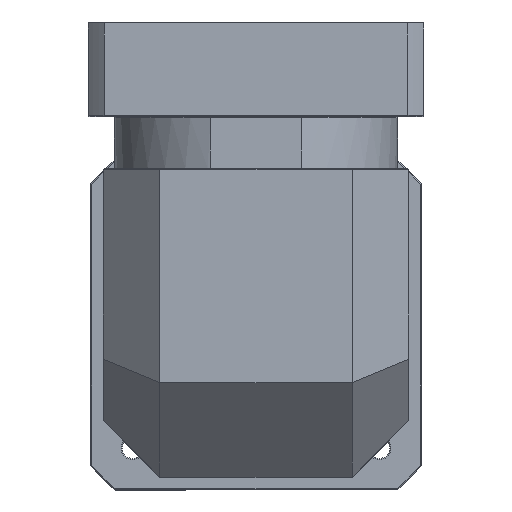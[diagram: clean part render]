
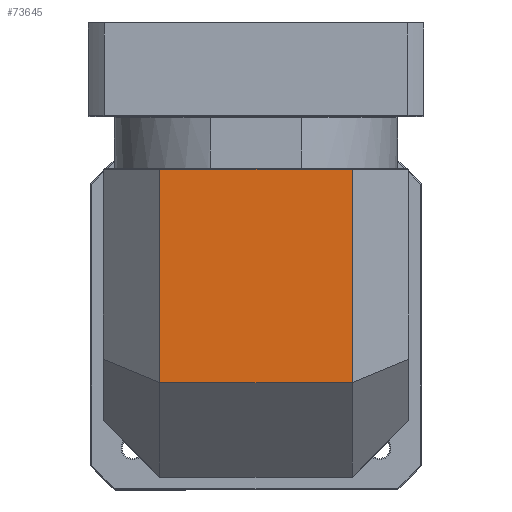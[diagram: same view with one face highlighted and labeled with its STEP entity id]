
A CAD part, top view. The second image highlights one B-rep face of the part: STEP entity #73645.
In plain terms, the highlighted planar face has unit normal (0, 0, 1).
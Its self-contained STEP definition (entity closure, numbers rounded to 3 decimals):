
#7202 = AXIS2_PLACEMENT_3D ( 'NONE', #74844, #14523, #46724 ) ;
#10144 = CARTESIAN_POINT ( 'NONE',  ( -136.72, 152.603, 78.874 ) ) ;
#12648 = VERTEX_POINT ( 'NONE', #10144 ) ;
#14523 = DIRECTION ( 'NONE',  ( 0., 0., -1. ) ) ;
#27896 = VECTOR ( 'NONE', #120319, 1000. ) ;
#31011 = CARTESIAN_POINT ( 'NONE',  ( -34.72, 39.603, 78.874 ) ) ;
#33049 = VECTOR ( 'NONE', #91531, 1000. ) ;
#35678 = LINE ( 'NONE', #128583, #95623 ) ;
#38575 = CARTESIAN_POINT ( 'NONE',  ( -136.72, 39.603, 78.874 ) ) ;
#46724 = DIRECTION ( 'NONE',  ( 1., 0., 0. ) ) ;
#47485 = FACE_OUTER_BOUND ( 'NONE', #92923, .T. ) ;
#52278 = LINE ( 'NONE', #54367, #27896 ) ;
#53972 = VERTEX_POINT ( 'NONE', #31011 ) ;
#54367 = CARTESIAN_POINT ( 'NONE',  ( -34.72, 153.103, 78.874 ) ) ;
#54957 = LINE ( 'NONE', #87089, #124615 ) ;
#58955 = LINE ( 'NONE', #70220, #33049 ) ;
#63856 = EDGE_CURVE ( 'NONE', #118876, #12648, #58955, .T. ) ;
#64445 = PLANE ( 'NONE',  #7202 ) ;
#66304 = ORIENTED_EDGE ( 'NONE', *, *, #95948, .F. ) ;
#67367 = DIRECTION ( 'NONE',  ( -1., 0., 0. ) ) ;
#70220 = CARTESIAN_POINT ( 'NONE',  ( -166.72, 152.603, 78.874 ) ) ;
#73645 = ADVANCED_FACE ( 'NONE', ( #47485 ), #64445, .F. ) ;
#74844 = CARTESIAN_POINT ( 'NONE',  ( -166.72, 153.103, 78.874 ) ) ;
#76198 = ORIENTED_EDGE ( 'NONE', *, *, #63856, .T. ) ;
#76441 = CARTESIAN_POINT ( 'NONE',  ( -34.72, 152.603, 78.874 ) ) ;
#77144 = ORIENTED_EDGE ( 'NONE', *, *, #121559, .F. ) ;
#87089 = CARTESIAN_POINT ( 'NONE',  ( -136.72, 71.353, 78.874 ) ) ;
#91531 = DIRECTION ( 'NONE',  ( -1., 0., 0. ) ) ;
#92526 = ORIENTED_EDGE ( 'NONE', *, *, #103343, .F. ) ;
#92923 = EDGE_LOOP ( 'NONE', ( #66304, #76198, #77144, #92526 ) ) ;
#95623 = VECTOR ( 'NONE', #67367, 1000. ) ;
#95948 = EDGE_CURVE ( 'NONE', #118876, #53972, #52278, .T. ) ;
#103343 = EDGE_CURVE ( 'NONE', #53972, #112035, #35678, .T. ) ;
#106114 = DIRECTION ( 'NONE',  ( 0., 1., 0. ) ) ;
#112035 = VERTEX_POINT ( 'NONE', #38575 ) ;
#118876 = VERTEX_POINT ( 'NONE', #76441 ) ;
#120319 = DIRECTION ( 'NONE',  ( 0., -1., 0. ) ) ;
#121559 = EDGE_CURVE ( 'NONE', #112035, #12648, #54957, .T. ) ;
#124615 = VECTOR ( 'NONE', #106114, 1000. ) ;
#128583 = CARTESIAN_POINT ( 'NONE',  ( -166.72, 39.603, 78.874 ) ) ;
